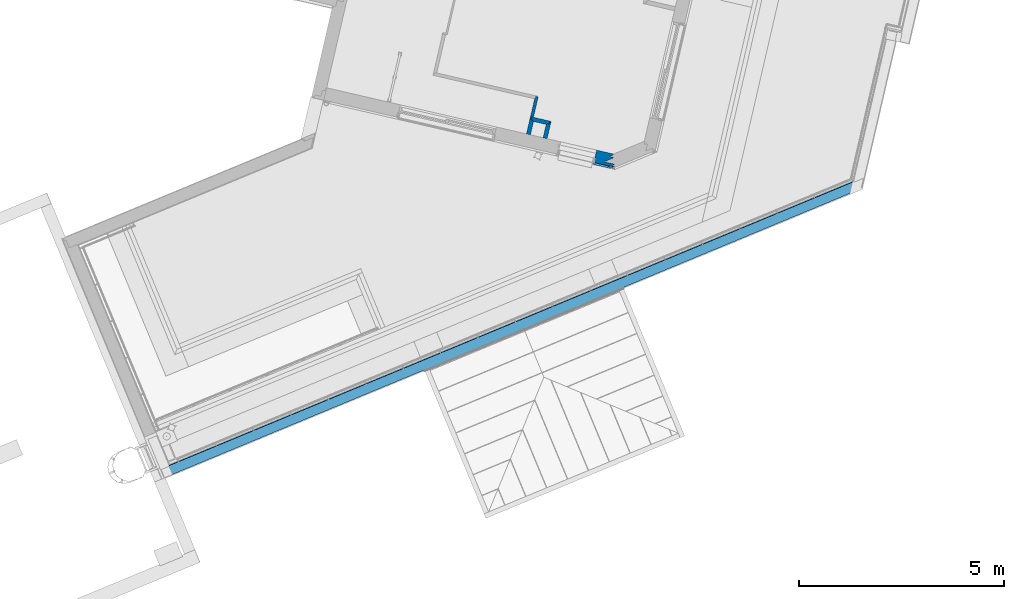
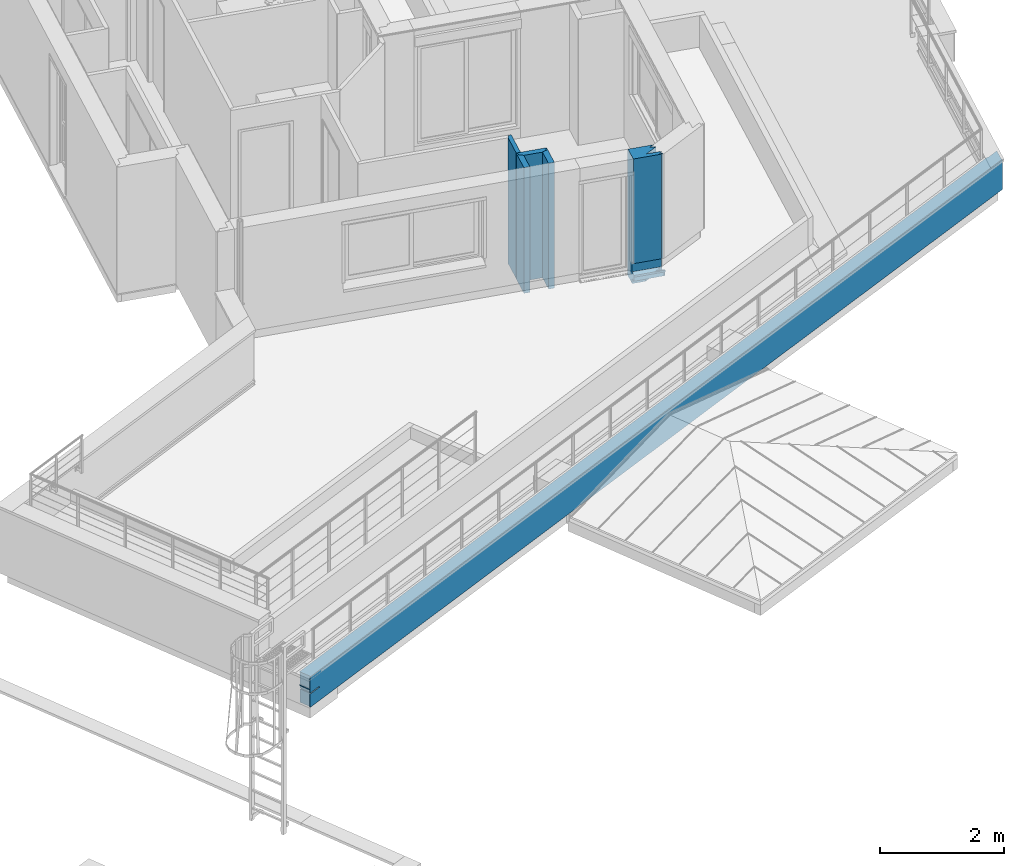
# One storey, part 5 of 47: 6 walls.
"""IFC2X3 building model written with IfcOpenShell, lengths in metres."""

from ifc_helpers import new_model, entity, si_unit, converted_unit, derived_unit, money_unit, direction, frame, origin_with_axes, place, context, subcontext, project, spatial, faceted_brep, material, material_list, type_object, element, save


model = new_model("IFC2X3")

# Units and contexts
model_context = context("Model", 3, precision=1e-05, world=origin_with_axes(), true_north=direction((0.0, 1.0)))
body_context = subcontext(model_context, "Body", "Model", "MODEL_VIEW")
ifc_project = project(units=[si_unit("LENGTHUNIT", "METRE"), si_unit("AREAUNIT", "SQUARE_METRE"), si_unit("VOLUMEUNIT", "CUBIC_METRE"), converted_unit("PLANEANGLEUNIT", "DEGREE", entity("IfcPlaneAngleMeasure", 0.0174532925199), si_unit("PLANEANGLEUNIT", "RADIAN"), dimensions=[0, 0, 0, 0, 0, 0, 0]), si_unit("SOLIDANGLEUNIT", "STERADIAN"), money_unit("EUR"), converted_unit("TIMEUNIT", "Year", entity("IfcTimeMeasure", 31556926.0), si_unit("TIMEUNIT", "SECOND"), dimensions=[0, 0, 1, 0, 0, 0, 0]), si_unit("MASSUNIT", "GRAM", prefix="KILO"), si_unit("THERMODYNAMICTEMPERATUREUNIT", "DEGREE_CELSIUS"), si_unit("LUMINOUSINTENSITYUNIT", "LUMEN"), si_unit("ENERGYUNIT", "JOULE", prefix="MEGA"), derived_unit("THERMALCONDUCTANCEUNIT", [(si_unit("POWERUNIT", "WATT"), 1), (si_unit("LENGTHUNIT", "METRE"), -1), (si_unit("THERMODYNAMICTEMPERATUREUNIT", "KELVIN"), -1)]), derived_unit("SPECIFICHEATCAPACITYUNIT", [(si_unit("ENERGYUNIT", "JOULE"), 1), (si_unit("MASSUNIT", "GRAM", prefix="KILO"), -1), (si_unit("THERMODYNAMICTEMPERATUREUNIT", "KELVIN"), -1)]), derived_unit("MASSDENSITYUNIT", [(si_unit("MASSUNIT", "GRAM", prefix="KILO"), 1), (si_unit("VOLUMEUNIT", "CUBIC_METRE"), -1)])], contexts=[model_context])

# Site, building, storey
site_placement = place(None, origin_with_axes())
site = spatial("IfcSite", under=ifc_project, at=site_placement, Name="Site", CompositionType="ELEMENT")
building_placement = place(site_placement, origin_with_axes())
building = spatial("IfcBuilding", under=site, at=building_placement, Name="Bâtiment", CompositionType="ELEMENT")
storey_placement = place(building_placement, frame((0.0, 0.0, 10.88), z_axis=(0.0, 0.0, 1.0), x_axis=(1.0, 0.0, 0.0)))
storey = spatial("IfcBuildingStorey", under=building, at=storey_placement, Name="R+4", CompositionType="ELEMENT", Elevation=10.88)

# Walls
ifc_material_1 = material(Name="Finition int - Plaque de plâtre")
ifc_material_2 = material(Name="Isolation - Laine de roche")
ifc_material_list_1 = material_list([ifc_material_1, ifc_material_2, ifc_material_1])
wall_type_1 = type_object("IfcWallType", Name="3 - Cloison 72mm Placostil 74", PredefinedType="USERDEFINED")
wall_1_placement = place(storey_placement, frame((-14.0630039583, -11.6742823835, 0.0), z_axis=(0.0, 0.0, 1.0), x_axis=(-0.224876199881, -0.974387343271, 0.0)))
element("IfcWall", 1, at=wall_1_placement, inside=storey, type_object=wall_type_1, material=ifc_material_list_1, Name="Cloison Placostil 72/48", ObjectType="PARTITIONING", context=body_context, shape_type="Brep", body=[
    faceted_brep([(0.520999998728, 0.0, 0.02), (0.0, 0.0, 0.02), (0.0, 0.0, 2.5), (0.520999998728, 0.0, 2.5), (0.0, -0.013, 0.02), (0.520999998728, -0.013, 0.02), (0.0, -0.013, 2.5), (0.520999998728, -0.013, 2.5)], [[[0, 1, 2, 3]], [[4, 1, 0, 5]], [[1, 4, 6, 2]], [[6, 7, 3, 2]], [[5, 0, 3, 7]], [[4, 5, 7, 6]]]),
    faceted_brep([(0.520999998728, -0.013, 0.02), (0.0129999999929, -0.013, 0.02), (0.0129999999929, -0.013, 2.5), (0.520999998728, -0.013, 2.5), (0.0129999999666, -0.061, 0.02), (0.520999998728, -0.061, 0.02), (0.0129999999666, -0.061, 2.5), (0.520999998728, -0.061, 2.5)], [[[0, 1, 2, 3]], [[4, 1, 0, 5]], [[1, 4, 6, 2]], [[6, 7, 3, 2]], [[5, 0, 3, 7]], [[4, 5, 7, 6]]]),
    faceted_brep([(0.520999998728, -0.061, 0.02), (0.0609999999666, -0.061, 0.02), (0.0609999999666, -0.061, 2.5), (0.520999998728, -0.061, 2.5), (0.0609999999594, -0.074, 0.02), (0.520999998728, -0.074, 0.02), (0.0609999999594, -0.074, 2.5), (0.520999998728, -0.074, 2.5)], [[[0, 1, 2, 3]], [[4, 1, 0, 5]], [[1, 4, 6, 2]], [[6, 7, 3, 2]], [[5, 0, 3, 7]], [[4, 5, 7, 6]]]),
])
ifc_material_list_2 = material_list([ifc_material_1, ifc_material_1, ifc_material_2, ifc_material_1, ifc_material_1])
wall_type_2 = type_object("IfcWallType", Name="3 - Cloison Gaine Technique 98mm 100", PredefinedType="USERDEFINED")
wall_2_placement = place(storey_placement, frame((-14.1567791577, -12.1873352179, 0.0), z_axis=(0.0, 0.0, 1.0), x_axis=(0.974387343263, -0.224876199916, 0.0)))
element("IfcWall", 2, at=wall_2_placement, inside=storey, type_object=wall_type_2, material=ifc_material_list_2, Name="Cloison 98 isolée", ObjectType="PARTITIONING", context=body_context, shape_type="Brep", body=[
    faceted_brep([(0.416359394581, -0.013, 0.02), (0.416359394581, 0.0, 0.02), (0.416359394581, 0.0, 2.5), (0.416359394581, -0.013, 2.5), (-0.1, 0.0, 0.02), (-0.0999999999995, -0.013, 0.02), (-0.1, 0.0, 2.5), (-0.0999999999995, -0.013, 2.5)], [[[0, 1, 2, 3]], [[4, 1, 0, 5]], [[1, 4, 6, 2]], [[3, 2, 6, 7]], [[5, 0, 3, 7]], [[4, 5, 7, 6]]]),
    faceted_brep([(0.403359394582, -0.026, 0.02), (0.403359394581, -0.013, 0.02), (0.403359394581, -0.013, 2.5), (0.403359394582, -0.026, 2.5), (-0.0869999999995, -0.013, 0.02), (-0.0869999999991, -0.026, 0.02), (-0.0869999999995, -0.013, 2.5), (-0.0869999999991, -0.026, 2.5)], [[[0, 1, 2, 3]], [[4, 1, 0, 5]], [[1, 4, 6, 2]], [[3, 2, 6, 7]], [[5, 0, 3, 7]], [[4, 5, 7, 6]]]),
    faceted_brep([(0.390359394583, -0.074, 0.02), (0.390359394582, -0.026, 0.02), (0.390359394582, -0.026, 2.5), (0.390359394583, -0.074, 2.5), (-0.0739999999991, -0.026, 0.02), (-0.0739999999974, -0.074, 0.02), (-0.0739999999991, -0.026, 2.5), (-0.0739999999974, -0.074, 2.5)], [[[0, 1, 2, 3]], [[4, 1, 0, 5]], [[1, 4, 6, 2]], [[3, 2, 6, 7]], [[5, 0, 3, 7]], [[4, 5, 7, 6]]]),
    faceted_brep([(0.342359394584, -0.087, 0.02), (0.342359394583, -0.074, 0.02), (0.342359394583, -0.074, 2.5), (0.342359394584, -0.087, 2.5), (-0.0259999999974, -0.074, 0.02), (-0.0259999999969, -0.087, 0.02), (-0.0259999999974, -0.074, 2.5), (-0.0259999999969, -0.087, 2.5)], [[[0, 1, 2, 3]], [[4, 1, 0, 5]], [[1, 4, 6, 2]], [[3, 2, 6, 7]], [[5, 0, 3, 7]], [[4, 5, 7, 6]]]),
    faceted_brep([(0.329359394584, -0.1, 0.02), (0.329359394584, -0.087, 0.02), (0.329359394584, -0.087, 2.5), (0.329359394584, -0.1, 2.5), (-0.0129999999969, -0.087, 0.02), (-0.0129999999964, -0.1, 0.02), (-0.0129999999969, -0.087, 2.5), (-0.0129999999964, -0.1, 2.5)], [[[0, 1, 2, 3]], [[4, 1, 0, 5]], [[1, 4, 6, 2]], [[3, 2, 6, 7]], [[5, 0, 3, 7]], [[4, 5, 7, 6]]]),
])
wall_3_placement = place(storey_placement, frame((-13.7510838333, -12.2809645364, 0.0), z_axis=(0.0, 0.0, 1.0), x_axis=(-0.224876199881, -0.974387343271, 0.0)))
element("IfcWall", 3, at=wall_3_placement, inside=storey, type_object=wall_type_2, material=ifc_material_list_2, Name="Cloison 98 isolée", ObjectType="PARTITIONING", context=body_context, shape_type="Brep", body=[
    faceted_brep([(0.43300000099, 0.0, 0.02), (0.013, 0.0, 0.02), (0.013, 0.0, 2.5), (0.43300000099, 0.0, 2.5), (0.0129999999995, -0.013, 0.02), (0.43300000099, -0.013, 0.02), (0.0129999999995, -0.013, 2.5), (0.43300000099, -0.013, 2.5)], [[[0, 1, 2, 3]], [[4, 1, 0, 5]], [[1, 4, 6, 2]], [[6, 7, 3, 2]], [[5, 0, 3, 7]], [[4, 5, 7, 6]]]),
    faceted_brep([(0.43300000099, -0.013, 0.02), (0.0259999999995, -0.013, 0.02), (0.0259999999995, -0.013, 2.5), (0.43300000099, -0.013, 2.5), (0.0259999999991, -0.026, 0.02), (0.43300000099, -0.026, 0.02), (0.0259999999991, -0.026, 2.5), (0.43300000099, -0.026, 2.5)], [[[0, 1, 2, 3]], [[4, 1, 0, 5]], [[1, 4, 6, 2]], [[6, 7, 3, 2]], [[5, 0, 3, 7]], [[4, 5, 7, 6]]]),
    faceted_brep([(0.43300000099, -0.026, 0.02), (0.0739999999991, -0.026, 0.02), (0.0739999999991, -0.026, 2.5), (0.43300000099, -0.026, 2.5), (0.0739999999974, -0.074, 0.02), (0.43300000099, -0.074, 0.02), (0.0739999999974, -0.074, 2.5), (0.43300000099, -0.074, 2.5)], [[[0, 1, 2, 3]], [[4, 1, 0, 5]], [[1, 4, 6, 2]], [[6, 7, 3, 2]], [[5, 0, 3, 7]], [[4, 5, 7, 6]]]),
    faceted_brep([(0.43300000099, -0.074, 0.02), (0.0869999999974, -0.074, 0.02), (0.0869999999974, -0.074, 2.5), (0.43300000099, -0.074, 2.5), (0.0869999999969, -0.087, 0.02), (0.43300000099, -0.087, 0.02), (0.0869999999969, -0.087, 2.5), (0.43300000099, -0.087, 2.5)], [[[0, 1, 2, 3]], [[4, 1, 0, 5]], [[1, 4, 6, 2]], [[6, 7, 3, 2]], [[5, 0, 3, 7]], [[4, 5, 7, 6]]]),
    faceted_brep([(0.43300000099, -0.087, 0.02), (0.0999999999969, -0.087, 0.02), (0.0999999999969, -0.087, 2.5), (0.43300000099, -0.087, 2.5), (0.0999999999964, -0.1, 0.02), (0.43300000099, -0.1, 0.02), (0.0999999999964, -0.1, 2.5), (0.43300000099, -0.1, 2.5)], [[[0, 1, 2, 3]], [[4, 1, 0, 5]], [[1, 4, 6, 2]], [[6, 7, 3, 2]], [[5, 0, 3, 7]], [[4, 5, 7, 6]]]),
])
wall_4_placement = place(storey_placement, frame((-14.1567791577, -12.1873352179, 0.0), z_axis=(0.0, 0.0, 1.0), x_axis=(-0.224876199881, -0.974387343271, 0.0)))
element("IfcWall", 4, at=wall_4_placement, inside=storey, type_object=wall_type_2, material=ifc_material_list_2, Name="Cloison 98 isolée", ObjectType="PARTITIONING", context=body_context, shape_type="Brep", body=[
    faceted_brep([(0.433000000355, 0.0, 0.02), (0.1, 0.0, 0.02), (0.1, 0.0, 2.5), (0.433000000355, 0.0, 2.5), (0.0999999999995, -0.013, 0.02), (0.433000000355, -0.013, 0.02), (0.0999999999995, -0.013, 2.5), (0.433000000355, -0.013, 2.5)], [[[0, 1, 2, 3]], [[4, 1, 0, 5]], [[1, 4, 6, 2]], [[6, 7, 3, 2]], [[5, 0, 3, 7]], [[4, 5, 7, 6]]]),
    faceted_brep([(0.433000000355, -0.013, 0.02), (0.0869999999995, -0.013, 0.02), (0.0869999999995, -0.013, 2.5), (0.433000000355, -0.013, 2.5), (0.0869999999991, -0.026, 0.02), (0.433000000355, -0.026, 0.02), (0.0869999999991, -0.026, 2.5), (0.433000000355, -0.026, 2.5)], [[[0, 1, 2, 3]], [[4, 1, 0, 5]], [[1, 4, 6, 2]], [[6, 7, 3, 2]], [[5, 0, 3, 7]], [[4, 5, 7, 6]]]),
    faceted_brep([(0.433000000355, -0.026, 0.02), (0.0739999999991, -0.026, 0.02), (0.0739999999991, -0.026, 2.5), (0.433000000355, -0.026, 2.5), (0.0739999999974, -0.074, 0.02), (0.433000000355, -0.074, 0.02), (0.0739999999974, -0.074, 2.5), (0.433000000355, -0.074, 2.5)], [[[0, 1, 2, 3]], [[4, 1, 0, 5]], [[1, 4, 6, 2]], [[6, 7, 3, 2]], [[5, 0, 3, 7]], [[4, 5, 7, 6]]]),
    faceted_brep([(0.433000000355, -0.074, 0.02), (0.0259999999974, -0.074, 0.02), (0.0259999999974, -0.074, 2.5), (0.433000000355, -0.074, 2.5), (0.0259999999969, -0.087, 0.02), (0.433000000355, -0.087, 0.02), (0.0259999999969, -0.087, 2.5), (0.433000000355, -0.087, 2.5)], [[[0, 1, 2, 3]], [[4, 1, 0, 5]], [[1, 4, 6, 2]], [[6, 7, 3, 2]], [[5, 0, 3, 7]], [[4, 5, 7, 6]]]),
    faceted_brep([(0.433000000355, -0.087, 0.02), (0.0129999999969, -0.087, 0.02), (0.0129999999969, -0.087, 2.5), (0.433000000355, -0.087, 2.5), (0.0129999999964, -0.1, 0.02), (0.433000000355, -0.1, 0.02), (0.0129999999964, -0.1, 2.5), (0.433000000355, -0.1, 2.5)], [[[0, 1, 2, 3]], [[4, 1, 0, 5]], [[1, 4, 6, 2]], [[6, 7, 3, 2]], [[5, 0, 3, 7]], [[4, 5, 7, 6]]]),
])
ifc_material_3 = material(Name="Métal - Aluminium")
ifc_material_4 = material(Name="Finition ext - Crépis")
ifc_material_5 = material(Name="Etanchéité - Bitume")
ifc_material_6 = material(Name="Béton")
ifc_material_list_3 = material_list([ifc_material_3, ifc_material_4, ifc_material_5, ifc_material_6, ifc_material_4])
wall_type_3 = type_object("IfcWallType", Name="Acrotère pour plancher 23 isolée 242 x 600", PredefinedType="USERDEFINED")
wall_5_placement = place(storey_placement, frame((-23.1643591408, -20.9394273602, 0.02), z_axis=(0.0, 0.0, 1.0), x_axis=(0.923701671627, 0.383112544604, 0.0)))
element("IfcWall", 5, at=wall_5_placement, inside=storey, type_object=wall_type_3, material=ifc_material_list_3, Name="Muret béton 20cm", ObjectType="PARAPET", context=body_context, shape_type="Brep", body=[
    faceted_brep([(0.199999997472, 0.2, 0.337041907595), (0.199999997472, 0.199999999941, 0.318976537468), (18.2558968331, 0.2, 0.318976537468), (18.2558968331, 0.2, 0.357041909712), (-0.015000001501, 0.2, 0.357041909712), (-0.0150000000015, 0.2, 0.337041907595), (0.0, 0.2, 0.337041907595), (0.199999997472, 0.201045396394, 0.337041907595), (0.199999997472, 0.201045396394, 0.320023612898), (0.199999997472, 0.204574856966, 0.318976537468), (0.199999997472, 0.22625057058, 0.311101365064), (18.2423833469, 0.226250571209, 0.311101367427), (18.2591627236, 0.204574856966, 0.318976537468), (18.2566431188, 0.201045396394, 0.320023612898), (18.2566431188, 0.201045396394, 0.357041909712), (-0.015000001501, 0.201045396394, 0.357041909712), (-0.0150000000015, 0.201045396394, 0.337041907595), (0.0, 0.201045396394, 0.337041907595), (18.2476817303, 0.227484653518, 0.312179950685), (0.199999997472, 0.227484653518, 0.312179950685), (0.199999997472, 0.227484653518, 0.309999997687), (0.199999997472, 0.226250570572, 0.309999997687), (0.199999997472, 0.226250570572, 0.298976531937), (0.226250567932, 0.226250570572, 0.291101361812), (0.226250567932, 0.226250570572, 0.290000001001), (0.226250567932, 0.226250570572, 0.282881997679), (18.2423833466, 0.226250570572, 0.282881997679), (18.2423833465, 0.226250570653, 0.309999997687), (18.2432643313, 0.227484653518, 0.311101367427), (18.2432643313, 0.227484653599, 0.309999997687), (18.2432643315, 0.227484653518, 0.282881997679), (0.226250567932, 0.227484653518, 0.282881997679), (0.226250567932, 0.227484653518, 0.290000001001), (0.226250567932, 0.227484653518, 0.291101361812), (0.199999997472, 0.227484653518, 0.298976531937)], [[[0, 1, 2, 3, 4, 5, 6]], [[1, 0, 7, 8, 9]], [[1, 10, 11, 2]], [[2, 12, 13, 14, 3]], [[3, 14, 15, 4]], [[16, 5, 4, 15]], [[17, 6, 5, 16]], [[0, 6, 17, 7]], [[7, 17, 16, 15, 14, 13, 8]], [[9, 8, 13, 12, 18, 19]], [[1, 9, 19, 20, 21, 10]], [[10, 21, 22, 23, 24, 25, 26, 27, 11]], [[12, 2, 11, 28, 18]], [[20, 19, 18, 28, 29, 30, 31, 32, 33, 34]], [[21, 20, 34, 22]], [[22, 34, 33, 23]], [[24, 23, 33, 32]], [[24, 32, 31, 25]], [[25, 31, 30, 26]], [[29, 27, 26, 30]], [[29, 28, 11, 27]]]),
    faceted_brep([(0.199999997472, 0.200000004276, 0.580000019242), (0.199999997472, 0.200000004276, 0.357041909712), (18.2558968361, 0.200000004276, 0.357041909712), (18.2558968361, 0.200000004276, 0.600000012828), (0.0, 0.200000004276, 0.600000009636), (0.0, 0.200000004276, 0.580000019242), (0.199999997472, 0.215000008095, 0.580000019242), (0.199999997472, 0.215000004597, 0.357041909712), (0.199999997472, 0.201045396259, 0.357041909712), (18.2566431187, 0.201045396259, 0.357041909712), (18.2666050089, 0.215000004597, 0.357041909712), (18.266605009, 0.215000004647, 0.600000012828), (0.0, 0.215000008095, 0.600000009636), (0.0, 0.215000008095, 0.580000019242)], [[[0, 1, 2, 3, 4, 5]], [[1, 0, 6, 7, 8]], [[1, 8, 9, 2]], [[10, 11, 3, 2, 9]], [[3, 11, 12, 4]], [[13, 5, 4, 12]], [[0, 5, 13, 6]], [[6, 13, 12, 11, 10, 7]], [[8, 7, 10, 9]]]),
    faceted_brep([(18.2558968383, 0.2, 0.109999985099), (18.2630356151, 0.209999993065, 0.109999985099), (18.2630356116, 0.209999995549, 0.282881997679), (18.2558968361, 0.200000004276, 0.282881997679), (0.199999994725, 0.209999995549, 0.109999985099), (0.199999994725, 0.199999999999, 0.109999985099), (0.199999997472, 0.209999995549, 0.262882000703), (0.209999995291, 0.209999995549, 0.262882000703), (0.22625057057, 0.209999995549, 0.262882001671), (0.227484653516, 0.209999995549, 0.262882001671), (0.227484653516, 0.209999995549, 0.282881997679), (0.22625057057, 0.209999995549, 0.282881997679), (0.209999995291, 0.209999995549, 0.282881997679), (0.199999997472, 0.209999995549, 0.282881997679), (0.199999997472, 0.209999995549, 0.290000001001), (0.199999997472, 0.209999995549, 0.298976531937), (0.199999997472, 0.209999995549, 0.309999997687), (18.2630356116, 0.209999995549, 0.309999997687), (18.2558968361, 0.200000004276, 0.309999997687), (0.199999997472, 0.200000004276, 0.309999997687), (0.199999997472, 0.200000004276, 0.298976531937), (0.199999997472, 0.200000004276, 0.290000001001), (0.199999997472, 0.200000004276, 0.282881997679), (0.209999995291, 0.200000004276, 0.282881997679), (0.226250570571, 0.200000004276, 0.282881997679), (0.227484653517, 0.200000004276, 0.282881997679), (0.227484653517, 0.200000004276, 0.262882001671), (0.226250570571, 0.200000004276, 0.262882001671), (0.209999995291, 0.200000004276, 0.262882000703), (0.199999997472, 0.200000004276, 0.262882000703)], [[[0, 1, 2, 3]], [[4, 1, 0, 5]], [[1, 4, 6, 7, 8, 9, 10, 11, 12, 13, 14, 15, 16, 17, 2]], [[3, 2, 17, 18]], [[5, 0, 3, 18, 19, 20, 21, 22, 23, 24, 25, 26, 27, 28, 29]], [[4, 5, 29, 6]], [[29, 28, 7, 6]], [[28, 27, 8, 7]], [[8, 27, 26, 9]], [[9, 26, 25, 10]], [[10, 25, 24, 11]], [[12, 11, 24, 23]], [[23, 22, 13, 12]], [[22, 21, 14, 13]], [[21, 20, 15, 14]], [[15, 20, 19, 16]], [[17, 16, 19, 18]]]),
    faceted_brep([(0.0, 0.200000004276, 0.600000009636), (4.79573714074e-10, 0.200000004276, 0.580000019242), (4.81048090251e-10, 0.0, 0.580000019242), (0.0, 0.0, 0.600000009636), (-0.0150000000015, 0.200000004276, 0.357041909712), (4.79573714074e-10, 0.200000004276, 0.357041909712), (18.5016301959, 0.200000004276, 0.600000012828), (18.5016301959, 0.200000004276, 0.357041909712), (18.5016301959, 0.200000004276, 0.318976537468), (4.79573714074e-10, 0.200000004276, 0.318976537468), (4.79573714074e-10, 0.200000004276, 0.337041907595), (-0.0150000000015, 0.200000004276, 0.337041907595), (4.81048090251e-10, 0.0, 0.357041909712), (-0.015, 0.0, 0.357041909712), (-0.015, 0.0, 0.337041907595), (4.81048090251e-10, 0.0, 0.337041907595), (4.81048090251e-10, 0.0, 0.318976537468), (4.81048090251e-10, 0.0, 0.309999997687), (4.81048090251e-10, 0.0, 0.298976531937), (4.81048090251e-10, 0.0, 0.290000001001), (4.81048090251e-10, 0.0, 0.282881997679), (0.199999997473, 0.0, 0.282881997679), (0.209999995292, 0.0, 0.282881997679), (0.226250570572, 0.0, 0.282881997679), (0.227484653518, 0.0, 0.282881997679), (0.227484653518, 0.0, 0.262882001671), (0.226250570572, 0.0, 0.262882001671), (0.209999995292, 0.0, 0.262882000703), (0.199999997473, 0.0, 0.262882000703), (0.0, 0.0, 0.262882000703), (4.81048090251e-10, 0.0, 0.100000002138), (4.81048090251e-10, 0.0, 0.080000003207), (4.81040984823e-10, 0.0, 0.0), (18.3588545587, 0.0, 0.0), (18.3588545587, 0.0, 0.100000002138), (18.3588545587, 0.0, 0.282881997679), (18.3588545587, 0.0, 0.309999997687), (18.3588545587, 0.0, 0.318976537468), (18.3588545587, 0.0, 0.357041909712), (18.3588545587, 0.0, 0.600000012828), (18.5016301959, 0.200000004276, 0.309999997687), (4.79573714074e-10, 0.200000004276, 0.309999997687), (4.79573714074e-10, 0.200000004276, 0.298976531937), (4.79573714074e-10, 0.200000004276, 0.290000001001), (4.79573714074e-10, 0.200000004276, 0.282881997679), (0.199999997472, 0.200000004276, 0.282881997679), (0.209999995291, 0.200000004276, 0.282881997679), (0.226250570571, 0.200000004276, 0.282881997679), (0.227484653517, 0.200000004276, 0.282881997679), (0.227484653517, 0.200000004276, 0.262882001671), (0.226250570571, 0.200000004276, 0.262882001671), (0.209999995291, 0.200000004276, 0.262882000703), (0.199999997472, 0.200000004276, 0.262882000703), (0.0, 0.200000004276, 0.262882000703), (4.79573714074e-10, 0.200000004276, 0.100000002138), (4.79573714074e-10, 0.200000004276, 0.080000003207), (4.79573714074e-10, 0.200000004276, 0.0), (18.5016301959, 0.200000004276, 0.0), (18.5016301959, 0.200000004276, 0.100000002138), (18.5016301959, 0.200000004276, 0.282881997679)], [[[0, 1, 2, 3]], [[4, 5, 1, 0, 6, 7, 8, 9, 10, 11]], [[5, 12, 2, 1]], [[2, 12, 13, 14, 15, 16, 17, 18, 19, 20, 21, 22, 23, 24, 25, 26, 27, 28, 29, 30, 31, 32, 33, 34, 35, 36, 37, 38, 39, 3]], [[3, 39, 6, 0]], [[4, 13, 12, 5]], [[38, 7, 6, 39]], [[8, 7, 38, 37]], [[40, 41, 9, 8]], [[9, 16, 15, 10]], [[10, 15, 14, 11]], [[14, 13, 4, 11]], [[17, 16, 9, 41]], [[18, 17, 41, 42]], [[19, 18, 42, 43]], [[20, 19, 43, 44]], [[21, 20, 44, 45]], [[45, 46, 22, 21]], [[46, 47, 23, 22]], [[48, 24, 23, 47]], [[49, 25, 24, 48]], [[50, 26, 25, 49]], [[27, 26, 50, 51]], [[28, 27, 51, 52]], [[29, 28, 52, 53]], [[30, 29, 53, 54]], [[31, 30, 54, 55]], [[32, 31, 55, 56]], [[33, 32, 56, 57]], [[57, 58, 34, 33]], [[58, 59, 35, 34]], [[59, 40, 36, 35]], [[40, 8, 37, 36]], [[43, 42, 41, 40, 59, 58, 54, 53, 52, 51, 50, 49, 48, 47, 46, 45, 44]], [[56, 55, 54, 58, 57]]]),
    faceted_brep([(0.227484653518, -0.0150000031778, 0.282881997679), (0.227484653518, -0.0150000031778, 0.262882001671), (0.226250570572, -0.0150000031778, 0.262882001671), (0.209999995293, -0.0150000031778, 0.262882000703), (0.199999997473, -0.0150000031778, 0.262882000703), (0.0, -0.0150000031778, 0.262882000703), (-0.0149999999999, -0.0150000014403, 0.262882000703), (-0.0150000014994, -0.015, 0.0), (18.3665763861, -0.015, 0.0), (18.3665763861, -0.015, 0.600000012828), (0.0, -0.0150000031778, 0.600000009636), (0.0, -0.0150000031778, 0.580000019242), (-0.0150000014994, -0.0150000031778, 0.580000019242), (-0.0149999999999, -0.0150000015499, 0.282881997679), (0.0, -0.0150000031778, 0.282881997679), (0.199999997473, -0.0150000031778, 0.282881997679), (0.209999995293, -0.0150000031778, 0.282881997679), (0.226250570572, -0.0150000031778, 0.282881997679), (0.227484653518, 3.20692805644e-10, 0.262882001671), (0.227484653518, 3.20692805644e-10, 0.282881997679), (0.226250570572, 3.20696358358e-10, 0.262882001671), (0.209999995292, 3.20696358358e-10, 0.262882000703), (0.199999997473, 3.20694582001e-10, 0.262882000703), (0.0, 3.20698134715e-10, 0.262882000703), (-0.015, 3.20698134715e-10, 0.262882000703), (-0.0150000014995, 3.20698134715e-10, 0.0), (18.3772845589, 3.20696358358e-10, 0.0), (18.3772845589, 3.20696358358e-10, 0.600000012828), (0.0, 3.20692805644e-10, 0.600000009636), (0.0, 3.20696358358e-10, 0.580000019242), (-0.0150000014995, 3.20698134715e-10, 0.580000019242), (-0.015, 3.20698134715e-10, 0.282881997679), (0.0, 3.20698134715e-10, 0.282881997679), (0.199999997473, 3.20694582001e-10, 0.282881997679), (0.209999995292, 3.20696358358e-10, 0.282881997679), (0.226250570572, 3.20696358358e-10, 0.282881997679)], [[[0, 1, 2, 3, 4, 5, 6, 7, 8, 9, 10, 11, 12, 13, 14, 15, 16, 17]], [[18, 1, 0, 19]], [[20, 2, 1, 18]], [[3, 2, 20, 21]], [[4, 3, 21, 22]], [[5, 4, 22, 23]], [[6, 5, 23, 24]], [[7, 6, 24, 25]], [[26, 8, 7, 25]], [[9, 8, 26, 27]], [[9, 27, 28, 10]], [[28, 29, 11, 10]], [[29, 30, 12, 11]], [[30, 31, 13, 12]], [[31, 32, 14, 13]], [[32, 33, 15, 14]], [[33, 34, 16, 15]], [[34, 35, 17, 16]], [[19, 0, 17, 35]], [[18, 19, 35, 34, 33, 32, 31, 30, 29, 28, 27, 26, 25, 24, 23, 22, 21, 20]]]),
])
ifc_material_7 = material(Name="Isolation - Laine de verre")
ifc_material_8 = material(Name="Etanchéité - Pare-vapeur")
ifc_material_9 = material(Name="Bois - Massif 01")
ifc_material_10 = material(Name="Bois - OSB 02")
ifc_material_11 = material(Name="Bois - Lattage")
ifc_material_12 = material(Name="Isolation - Polyuréthane (extérieur)")
ifc_material_13 = material(Name="Finition ext - Bardage bois")
ifc_material_list_4 = material_list([ifc_material_1, ifc_material_7, ifc_material_8, ifc_material_9, ifc_material_9, ifc_material_7, ifc_material_6, ifc_material_10, ifc_material_11, ifc_material_12, ifc_material_13, ifc_material_5, ifc_material_3])
wall_type_4 = type_object("IfcWallType", Name="Mur ossature Bois avec talon béton 358 x 2500", PredefinedType="ELEMENTEDWALL")
wall_6_placement = place(storey_placement, frame((-12.7131231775, -13.2830430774, 0.02), z_axis=(0.0, 0.0, 1.0), x_axis=(0.974387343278, -0.224876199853, 0.0)))
element("IfcWall", 6, at=wall_6_placement, inside=storey, type_object=wall_type_4, material=ifc_material_list_4, Name="M_Ext-009", ObjectType="ELEMENTEDWALL", context=body_context, shape_type="Brep", body=[
    faceted_brep([(0.0, 0.30999999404, 2.48), (0.422127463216, 0.309999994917, 2.48), (0.422127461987, 0.30999999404, 2.455), (0.422127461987, 0.30999999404, 0.435), (0.422127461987, 0.30999999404, 0.275), (0.422127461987, 0.30999999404, 0.23), (0.422127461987, 0.30999999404, 0.2), (0.422127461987, 0.30999999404, 0.100000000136), (0.42212746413, 0.30999999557, 0.0), (0.0, 0.30999999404, 0.0), (0.396913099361, 0.292000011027, 2.48), (0.0, 0.292000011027, 2.48), (0.396913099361, 0.292000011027, 2.455), (0.396913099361, 0.292000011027, 0.435), (0.396913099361, 0.292000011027, 0.275), (0.396913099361, 0.292000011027, 0.23), (0.396913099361, 0.292000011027, 0.2), (0.396913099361, 0.292000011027, 0.100000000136), (0.396913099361, 0.292000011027, 0.0), (0.0, 0.292000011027, 0.0)], [[[0, 1, 2, 3, 4, 5, 6, 7, 8, 9]], [[10, 1, 0, 11]], [[1, 10, 12, 2]], [[3, 2, 12, 13]], [[4, 3, 13, 14]], [[5, 4, 14, 15]], [[6, 5, 15, 16]], [[7, 6, 16, 17]], [[8, 7, 17, 18]], [[9, 8, 18, 19]], [[11, 0, 9, 19]], [[10, 11, 19, 18, 17, 16, 15, 14, 13, 12]]]),
    faceted_brep([(0.0, 0.232000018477, 2.5), (0.343845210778, 0.232000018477, 2.5), (0.427893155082, 0.292000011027, 2.5), (0.0, 0.292000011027, 2.5), (0.343845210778, 0.232000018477, 0.435), (0.343845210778, 0.232000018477, 2.455), (0.0, 0.232000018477, 0.0), (0.343845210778, 0.232000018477, 0.0), (0.343845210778, 0.232000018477, 0.100000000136), (0.343845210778, 0.232000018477, 0.2), (0.343845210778, 0.232000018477, 0.23), (0.343845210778, 0.232000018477, 0.275), (0.427893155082, 0.292000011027, 2.455), (0.427893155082, 0.292000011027, 0.435), (0.427893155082, 0.292000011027, 0.275), (0.427893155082, 0.292000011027, 0.23), (0.427893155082, 0.292000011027, 0.2), (0.427893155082, 0.292000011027, 0.100000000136), (0.427893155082, 0.292000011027, 0.0), (0.0, 0.292000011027, 0.0)], [[[0, 1, 2, 3]], [[4, 5, 1, 0, 6, 7, 8, 9, 10, 11]], [[5, 12, 2, 1]], [[3, 2, 12, 13, 14, 15, 16, 17, 18, 19]], [[19, 6, 0, 3]], [[13, 12, 5, 4]], [[19, 18, 7, 6]], [[18, 17, 8, 7]], [[17, 16, 9, 8]], [[16, 15, 10, 9]], [[15, 14, 11, 10]], [[14, 13, 4, 11]]]),
    faceted_brep([(0.0, 0.221999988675, 2.5), (0.433104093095, 0.221999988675, 2.5), (0.447112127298, 0.232000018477, 2.5), (0.0, 0.232000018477, 2.5), (0.433104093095, 0.221999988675, 0.435), (0.433104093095, 0.221999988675, 2.455), (0.0, 0.221999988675, 0.0), (0.433104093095, 0.221999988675, 0.0), (0.433104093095, 0.221999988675, 0.100000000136), (0.433104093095, 0.221999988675, 0.2), (0.433104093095, 0.221999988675, 0.23), (0.433104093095, 0.221999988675, 0.275), (0.447112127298, 0.232000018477, 2.455), (0.447112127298, 0.232000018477, 0.435), (0.447112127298, 0.232000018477, 0.275), (0.447112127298, 0.232000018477, 0.23), (0.447112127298, 0.232000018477, 0.2), (0.447112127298, 0.232000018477, 0.100000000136), (0.447112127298, 0.232000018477, 0.0), (0.0, 0.232000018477, 0.0)], [[[0, 1, 2, 3]], [[4, 5, 1, 0, 6, 7, 8, 9, 10, 11]], [[5, 12, 2, 1]], [[3, 2, 12, 13, 14, 15, 16, 17, 18, 19]], [[19, 6, 0, 3]], [[13, 12, 5, 4]], [[19, 18, 7, 6]], [[18, 17, 8, 7]], [[17, 16, 9, 8]], [[16, 15, 10, 9]], [[15, 14, 11, 10]], [[14, 13, 4, 11]]]),
    faceted_brep([(0.247199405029, 0.077, 0.275), (0.450315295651, 0.222, 0.275), (0.0, 0.222, 0.275), (0.0, 0.077, 0.275), (0.450315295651, 0.222, 0.23), (0.247199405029, 0.077, 0.23), (0.0, 0.222, 0.23), (0.0, 0.077, 0.23)], [[[0, 1, 2, 3]], [[4, 1, 0, 5]], [[1, 4, 6, 2]], [[7, 3, 2, 6]], [[5, 0, 3, 7]], [[4, 5, 7, 6]]]),
    faceted_brep([(0.247199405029, 0.077, 2.5), (0.450315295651, 0.222, 2.5), (0.0, 0.222, 2.5), (0.0, 0.077, 2.5), (0.450315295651, 0.222, 2.455), (0.247199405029, 0.077, 2.455), (0.0, 0.222, 2.455), (0.0, 0.077, 2.455)], [[[0, 1, 2, 3]], [[4, 1, 0, 5]], [[1, 4, 6, 2]], [[7, 3, 2, 6]], [[5, 0, 3, 7]], [[4, 5, 7, 6]]]),
    faceted_brep([(0.247199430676, 0.077, 2.4550000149), (0.450315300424, 0.221999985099, 2.4550000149), (0.0, 0.221999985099, 2.4550000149), (0.0, 0.077, 2.45499997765), (0.450315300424, 0.221999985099, 0.435), (0.247199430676, 0.077, 0.435), (0.450315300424, 0.221999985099, 0.275), (0.0, 0.221999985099, 0.275), (0.0, 0.077, 0.275), (0.247199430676, 0.077, 0.275)], [[[0, 1, 2, 3]], [[4, 1, 0, 5]], [[1, 4, 6, 7, 2]], [[8, 3, 2, 7]], [[5, 0, 3, 8, 9]], [[4, 5, 9, 6]], [[6, 9, 8, 7]]]),
    faceted_brep([(0.0, 0.0619999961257, 0.23), (0.226187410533, 0.0619999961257, 0.23), (0.450315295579, 0.222000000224, 0.23), (0.0, 0.222000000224, 0.23), (0.226187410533, 0.0619999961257, 0.100000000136), (0.226187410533, 0.0619999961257, 0.2), (0.0, 0.0619999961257, 0.0), (0.226187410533, 0.0619999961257, 0.0), (0.450315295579, 0.222000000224, 0.2), (0.450315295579, 0.222000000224, 0.100000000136), (0.450315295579, 0.222000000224, 0.0), (0.0, 0.222000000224, 0.0)], [[[0, 1, 2, 3]], [[4, 5, 1, 0, 6, 7]], [[5, 8, 2, 1]], [[3, 2, 8, 9, 10, 11]], [[11, 6, 0, 3]], [[9, 8, 5, 4]], [[11, 10, 7, 6]], [[10, 9, 4, 7]]]),
    faceted_brep([(0.479951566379, 0.065000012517, 2.5), (0.496761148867, 0.0770000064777, 2.5), (0.0, 0.0770000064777, 2.5), (0.0, 0.065000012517, 2.5), (0.496761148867, 0.0770000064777, 2.455), (0.479951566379, 0.065000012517, 2.455), (0.496761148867, 0.0770000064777, 0.435), (0.496761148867, 0.0770000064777, 0.275), (0.496761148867, 0.0770000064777, 0.230000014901), (0.0, 0.0770000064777, 0.230000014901), (0.0, 0.065000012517, 0.230000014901), (0.479951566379, 0.065000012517, 0.230000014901), (0.479951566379, 0.065000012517, 0.275), (0.479951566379, 0.065000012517, 0.435)], [[[0, 1, 2, 3]], [[4, 1, 0, 5]], [[1, 4, 6, 7, 8, 9, 2]], [[10, 3, 2, 9]], [[5, 0, 3, 10, 11, 12, 13]], [[4, 5, 13, 6]], [[6, 13, 12, 7]], [[7, 12, 11, 8]], [[8, 11, 10, 9]]]),
    faceted_brep([(0.4445729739, 0.024999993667, 2.5), (0.500604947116, 0.0649999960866, 2.5), (0.0, 0.0649999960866, 2.5), (0.0, 0.024999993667, 2.5), (0.500604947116, 0.0649999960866, 2.455), (0.4445729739, 0.024999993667, 2.455), (0.500604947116, 0.0649999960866, 0.435000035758), (0.0, 0.0649999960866, 0.435000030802), (0.0, 0.024999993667, 0.434999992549), (0.0, 0.0599999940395, 0.434999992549), (0.4445729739, 0.024999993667, 0.435000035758), (0.493600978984, 0.0600000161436, 0.435000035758)], [[[0, 1, 2, 3]], [[4, 1, 0, 5]], [[1, 4, 6, 7, 2]], [[8, 3, 2, 7, 9]], [[5, 0, 3, 8, 10]], [[4, 5, 10, 11, 6]], [[6, 11, 9, 7]], [[11, 10, 8, 9]]]),
    faceted_brep([(0.389501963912, -0.0179999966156, 0.0999999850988), (0.50156589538, 0.0619999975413, 0.0999999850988), (0.50156589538, 0.0619999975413, 0.2), (0.389501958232, -0.0180000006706, 0.2), (0.226187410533, 0.0619999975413, 0.0999999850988), (0.0, -0.0179999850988, 0.0999999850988), (0.0, 0.061999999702, 0.0999999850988), (0.0, 0.0619999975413, 0.230000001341), (0.50156589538, 0.0619999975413, 0.230000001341), (0.389501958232, -0.0180000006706, 0.230000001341), (0.0, -0.0180000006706, 0.230000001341)], [[[0, 1, 2, 3]], [[4, 1, 0, 5, 6]], [[4, 6, 7, 8, 2, 1]], [[3, 2, 8, 9]], [[5, 0, 3, 9, 10]], [[6, 5, 10, 7]], [[10, 9, 8, 7]]]),
    faceted_brep([(0.478397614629, 1.22962973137e-10, 2.5), (0.513417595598, 0.025, 2.5), (0.0, 0.025, 2.5), (0.0, 1.49011825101e-09, 2.5), (0.513417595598, 0.025, 2.455), (0.478397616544, 1.49011825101e-09, 2.455), (0.513417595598, 0.025, 0.435), (0.0, 0.025, 0.434999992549), (0.0, 1.49011647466e-09, 0.434999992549), (0.478397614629, 1.22962973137e-10, 0.435)], [[[0, 1, 2, 3]], [[4, 1, 0, 5]], [[1, 4, 6, 7, 2]], [[8, 3, 2, 7]], [[5, 0, 3, 8, 9]], [[4, 5, 9, 6]], [[6, 9, 8, 7]]]),
    faceted_brep([(0.513183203, -0.0279999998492, 0.109999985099), (0.527191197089, -0.0179999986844, 0.109999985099), (0.527191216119, -0.0179999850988, 0.2), (0.513183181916, -0.0280000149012, 0.2), (0.389501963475, -0.0179999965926, 0.109999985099), (0.0, -0.0280000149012, 0.109999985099), (0.0, -0.0179999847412, 0.109999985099), (0.0, -0.0180000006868, 0.230000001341), (0.527191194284, -0.0180000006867, 0.230000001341), (0.513183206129, -0.0279999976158, 0.230000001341), (0.0, -0.0279999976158, 0.230000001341), (0.0, -0.0280000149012, 0.2)], [[[0, 1, 2, 3]], [[4, 1, 0, 5, 6]], [[4, 6, 7, 8, 2, 1]], [[3, 2, 8, 9]], [[5, 0, 3, 9, 10, 11]], [[6, 5, 11, 10, 7]], [[10, 9, 8, 7]]]),
    faceted_brep([(0.493600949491, 0.0599999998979, 0.435), (0.500604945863, 0.065, 0.435), (0.0, 0.065, 0.434999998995), (0.0, 0.0599999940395, 0.434999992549), (0.500604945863, 0.065, 0.275), (0.493600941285, 0.0599999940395, 0.275), (0.500604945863, 0.065, 0.23), (0.0, 0.065, 0.23), (0.0, 0.0599999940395, 0.234999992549), (0.0, -0.0279999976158, 0.230000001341), (0.0, -0.043, 0.23), (0.0, -0.043, 0.2), (0.0, -0.048, 0.2), (0.0, -0.048, 0.234999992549), (0.493600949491, 0.0599999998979, 0.234999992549), (0.342314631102, -0.048, 0.234999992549), (0.342314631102, -0.048, 0.23), (0.349318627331, -0.043, 0.23), (0.370330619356, -0.0279999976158, 0.23), (0.509382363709, -0.043, 0.230000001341), (0.535199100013, -0.043000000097, 0.23), (0.535199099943, -0.043, 0.2), (0.528195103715, -0.048, 0.2), (0.528195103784, -0.048000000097, 0.23), (0.502378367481, -0.048, 0.230000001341)], [[[0, 1, 2, 3]], [[4, 1, 0, 5]], [[1, 4, 6, 7, 2]], [[8, 3, 2, 7, 9, 10, 11, 12, 13]], [[5, 0, 3, 8, 14]], [[4, 5, 14, 15, 16, 17, 18, 6]], [[6, 18, 9, 7]], [[18, 17, 10, 9]], [[17, 19, 20, 21, 11, 10]], [[21, 22, 12, 11]], [[16, 15, 13, 12, 22, 23, 24]], [[15, 14, 8, 13]], [[19, 17, 16, 24]], [[23, 20, 19, 24]], [[20, 23, 22, 21]]]),
])

save(model, "model.ifc")
